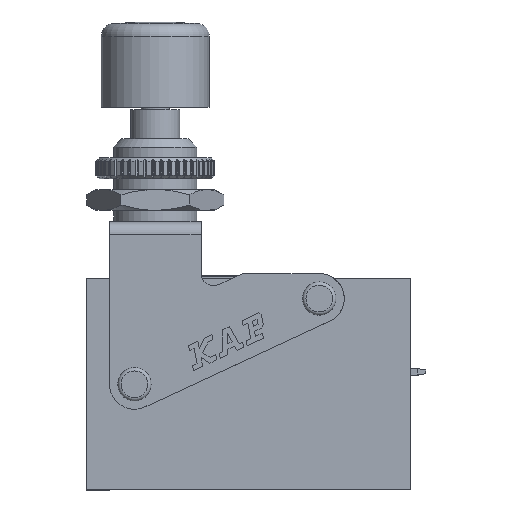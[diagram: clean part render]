
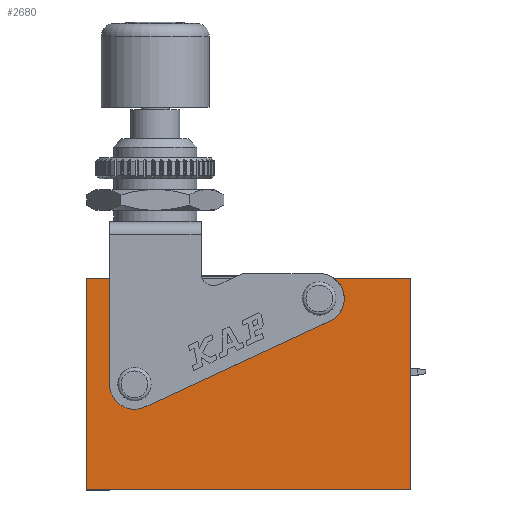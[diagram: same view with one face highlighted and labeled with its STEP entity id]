
A CAD part, top view. The second image highlights one B-rep face of the part: STEP entity #2680.
In plain terms, the highlighted planar face has unit normal (0, 0, 1).
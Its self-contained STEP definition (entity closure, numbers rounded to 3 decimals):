
#2599=CARTESIAN_POINT('',(13.7,0.,0.0));
#2600=DIRECTION('',(0.0,0.0,1.0));
#2601=DIRECTION('',(1.0,0.0,0.0));
#2602=AXIS2_PLACEMENT_3D('',#2599,#2600,#2601);
#2603=PLANE('',#2602);
#2604=CARTESIAN_POINT('',(-3.0,0.,0.));
#2605=VERTEX_POINT('',#2604);
#2606=CARTESIAN_POINT('',(-3.,12.7,0.));
#2607=VERTEX_POINT('',#2606);
#2608=CARTESIAN_POINT('',(-3.,0.,0.));
#2609=DIRECTION('',(0.0,1.0,0.0));
#2610=VECTOR('',#2609,12.7);
#2611=LINE('',#2608,#2610);
#2612=EDGE_CURVE('',#2605,#2607,#2611,.T.);
#2613=ORIENTED_EDGE('',*,*,#2612,.T.);
#2614=CARTESIAN_POINT('',(-5.8,12.7,0.0));
#2615=VERTEX_POINT('',#2614);
#2616=CARTESIAN_POINT('',(-5.8,12.7,0.0));
#2617=DIRECTION('',(1.0,0.0,0.0));
#2618=VECTOR('',#2617,2.8);
#2619=LINE('',#2616,#2618);
#2620=EDGE_CURVE('',#2615,#2607,#2619,.T.);
#2621=ORIENTED_EDGE('',*,*,#2620,.F.);
#2622=CARTESIAN_POINT('',(-5.8,-12.7,0.0));
#2623=VERTEX_POINT('',#2622);
#2624=CARTESIAN_POINT('',(-5.8,-12.7,0.0));
#2625=DIRECTION('',(0.0,1.0,0.0));
#2626=VECTOR('',#2625,25.4);
#2627=LINE('',#2624,#2626);
#2628=EDGE_CURVE('',#2623,#2615,#2627,.T.);
#2629=ORIENTED_EDGE('',*,*,#2628,.F.);
#2630=CARTESIAN_POINT('',(33.2,-12.7,0.0));
#2631=VERTEX_POINT('',#2630);
#2632=CARTESIAN_POINT('',(33.2,-12.7,0.0));
#2633=DIRECTION('',(-1.0,0.0,0.0));
#2634=VECTOR('',#2633,39.0);
#2635=LINE('',#2632,#2634);
#2636=EDGE_CURVE('',#2631,#2623,#2635,.T.);
#2637=ORIENTED_EDGE('',*,*,#2636,.F.);
#2638=CARTESIAN_POINT('',(33.2,12.7,0.0));
#2639=VERTEX_POINT('',#2638);
#2640=CARTESIAN_POINT('',(33.2,12.7,0.0));
#2641=DIRECTION('',(0.0,-1.0,0.0));
#2642=VECTOR('',#2641,25.4);
#2643=LINE('',#2640,#2642);
#2644=EDGE_CURVE('',#2639,#2631,#2643,.T.);
#2645=ORIENTED_EDGE('',*,*,#2644,.F.);
#2646=CARTESIAN_POINT('',(24.,12.7,0.));
#2647=VERTEX_POINT('',#2646);
#2648=CARTESIAN_POINT('',(24.,12.7,0.));
#2649=DIRECTION('',(1.0,0.0,0.0));
#2650=VECTOR('',#2649,9.2);
#2651=LINE('',#2648,#2650);
#2652=EDGE_CURVE('',#2647,#2639,#2651,.T.);
#2653=ORIENTED_EDGE('',*,*,#2652,.F.);
#2654=CARTESIAN_POINT('',(23.463,7.579,0.));
#2655=VERTEX_POINT('',#2654);
#2656=CARTESIAN_POINT('',(22.2,10.3,0.));
#2657=DIRECTION('',(0.,0.,-1.0));
#2658=DIRECTION('',(-0.421,0.907,0.));
#2659=AXIS2_PLACEMENT_3D('',#2656,#2657,#2658);
#2660=CIRCLE('',#2659,3.);
#2661=EDGE_CURVE('',#2647,#2655,#2660,.T.);
#2662=ORIENTED_EDGE('',*,*,#2661,.T.);
#2663=CARTESIAN_POINT('',(1.263,-2.721,0.));
#2664=VERTEX_POINT('',#2663);
#2665=CARTESIAN_POINT('',(23.463,7.579,0.));
#2666=DIRECTION('',(-0.907,-0.421,0.));
#2667=VECTOR('',#2666,24.473);
#2668=LINE('',#2665,#2667);
#2669=EDGE_CURVE('',#2655,#2664,#2668,.T.);
#2670=ORIENTED_EDGE('',*,*,#2669,.T.);
#2671=CARTESIAN_POINT('',(0.,0.,0.));
#2672=DIRECTION('',(0.0,0.0,-1.0));
#2673=DIRECTION('',(1.0,0.0,0.0));
#2674=AXIS2_PLACEMENT_3D('',#2671,#2672,#2673);
#2675=CIRCLE('',#2674,3.);
#2676=EDGE_CURVE('',#2664,#2605,#2675,.T.);
#2677=ORIENTED_EDGE('',*,*,#2676,.T.);
#2678=EDGE_LOOP('',(#2613,#2621,#2629,#2637,#2645,#2653,#2662,#2670,#2677));
#2679=FACE_OUTER_BOUND('',#2678,.T.);
#2680=ADVANCED_FACE('',(#2679),#2603,.T.);
